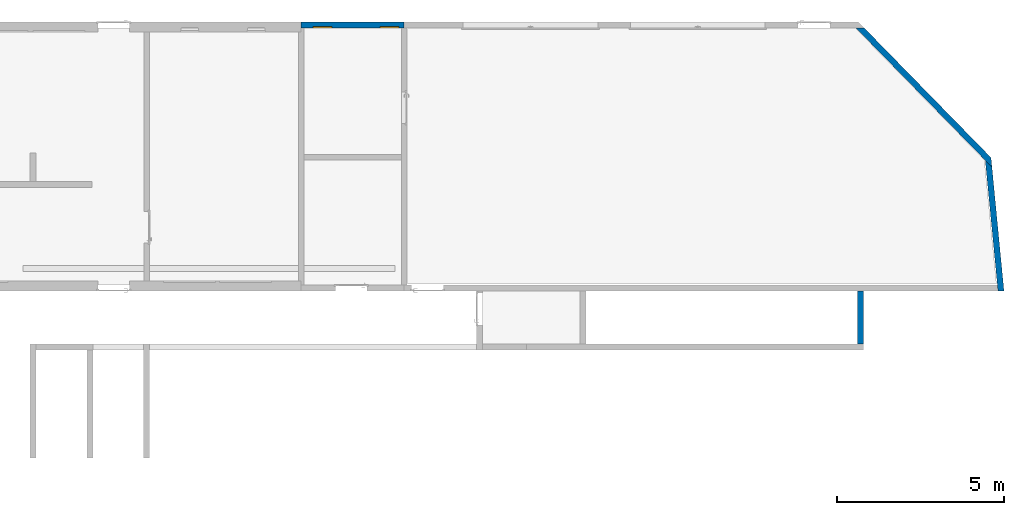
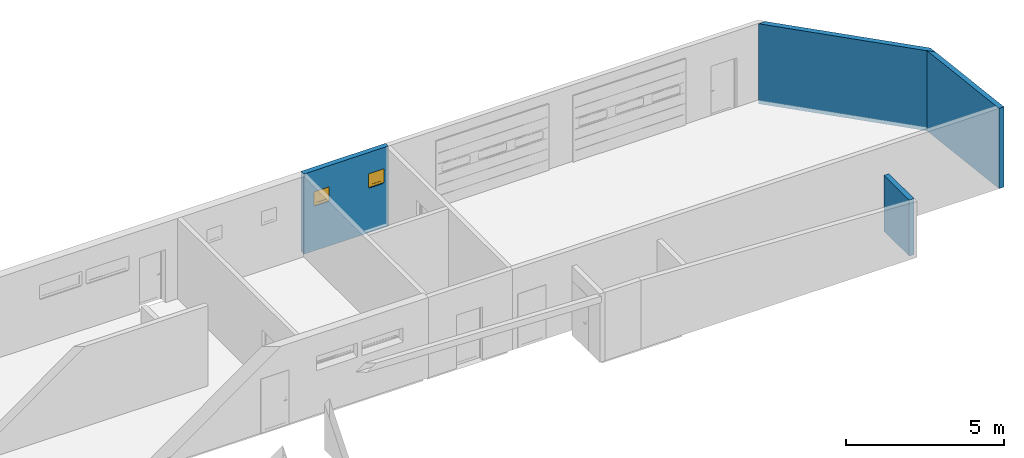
# One storey, part 5 of 9: 4 walls, 2 windows, 2 openings.
"""IFC2X3 building model written with IfcOpenShell, lengths in metres."""

from ifc_helpers import new_model, entity, si_unit, converted_unit, derived_unit, direction, frame, frame_2d, origin, place, context, subcontext, project, spatial, polyline, rectangle, outline, extrude, clip, bounded_halfspace, faceted_brep, source, transform, mapped, material, material_list, layer, layer_set, layer_usage, type_object, type_shapes, element, fill, save


model = new_model("IFC2X3")

# Units and contexts
model_context = context("Model", 3, precision=1e-05, world=origin(), true_north=direction((6.12303176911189e-17, 1.0)))
body_context = subcontext(model_context, "Body", "Model", "MODEL_VIEW")
ifc_project = project(units=[si_unit("LENGTHUNIT", "METRE"), si_unit("AREAUNIT", "SQUARE_METRE"), si_unit("VOLUMEUNIT", "CUBIC_METRE"), converted_unit("PLANEANGLEUNIT", "DEGREE", entity("IfcRatioMeasure", 0.0174532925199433), si_unit("PLANEANGLEUNIT", "RADIAN"), dimensions=[0, 0, 0, 0, 0, 0, 0]), si_unit("MASSUNIT", "GRAM", prefix="KILO"), derived_unit("MASSDENSITYUNIT", [(si_unit("MASSUNIT", "GRAM", prefix="KILO"), 1), (si_unit("LENGTHUNIT", "METRE"), -3)]), si_unit("TIMEUNIT", "SECOND"), si_unit("FREQUENCYUNIT", "HERTZ"), si_unit("THERMODYNAMICTEMPERATUREUNIT", "DEGREE_CELSIUS"), derived_unit("THERMALTRANSMITTANCEUNIT", [(si_unit("MASSUNIT", "GRAM", prefix="KILO"), 1), (si_unit("THERMODYNAMICTEMPERATUREUNIT", "KELVIN"), -1), (si_unit("TIMEUNIT", "SECOND"), -3)]), derived_unit("VOLUMETRICFLOWRATEUNIT", [(si_unit("LENGTHUNIT", "METRE"), 3), (si_unit("TIMEUNIT", "SECOND"), -1)]), si_unit("ELECTRICCURRENTUNIT", "AMPERE"), si_unit("ELECTRICVOLTAGEUNIT", "VOLT"), si_unit("POWERUNIT", "WATT"), si_unit("FORCEUNIT", "NEWTON", prefix="KILO"), si_unit("ILLUMINANCEUNIT", "LUX"), si_unit("LUMINOUSFLUXUNIT", "LUMEN"), si_unit("LUMINOUSINTENSITYUNIT", "CANDELA"), derived_unit("USERDEFINED", [(si_unit("MASSUNIT", "GRAM", prefix="KILO"), -1), (si_unit("LENGTHUNIT", "METRE"), -2), (si_unit("TIMEUNIT", "SECOND"), 3), (si_unit("LUMINOUSFLUXUNIT", "LUMEN"), 1)]), derived_unit("LINEARVELOCITYUNIT", [(si_unit("LENGTHUNIT", "METRE"), 1), (si_unit("TIMEUNIT", "SECOND"), -1)]), si_unit("PRESSUREUNIT", "PASCAL"), derived_unit("USERDEFINED", [(si_unit("LENGTHUNIT", "METRE"), -2), (si_unit("MASSUNIT", "GRAM", prefix="KILO"), 1), (si_unit("TIMEUNIT", "SECOND"), -2)])], contexts=[model_context])

# Site, building, storey
site_placement = place(None, origin())
site = spatial("IfcSite", under=ifc_project, at=site_placement, Name="Default", CompositionType="ELEMENT")
building_placement = place(site_placement, origin())
building = spatial("IfcBuilding", under=site, at=building_placement, CompositionType="ELEMENT")
storey_placement = place(building_placement, origin())
storey = spatial("IfcBuildingStorey", under=building, at=storey_placement, Name="Niveau 0", CompositionType="ELEMENT", Elevation=-1.94916083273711e-14)

# Walls
ifc_material_1 = material(Name="Maçonnerie - Voile BA")
ifc_layer = layer(ifc_material_1, 0.18)
ifc_layer_set = layer_set([ifc_layer], Name="Mur de base:Ext. Voile BA 18")
ifc_layer_usage_1 = layer_usage(ifc_layer_set, "AXIS2", "NEGATIVE", 0.09)
wall_type = type_object("IfcWallType", Name="Mur de base:Ext. Voile BA 18", PredefinedType="NOTDEFINED")
wall_1_placement = place(storey_placement, frame((19.9388114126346, 2.89203739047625, 0.0), z_axis=(0.0, 0.0, 1.0), x_axis=(0.699097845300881, -0.715026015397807, 0.0)))
element("IfcWallStandardCase", 1, at=wall_1_placement, inside=storey, type_object=wall_type, material=ifc_layer_usage_1, Name="Mur de base:Ext. Voile BA 18", ObjectType="Mur de base:Ext. Voile BA 18", context=body_context, shape_type="SweptSolid", body=[
    extrude(outline(polyline([(5.82158963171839, -0.0899999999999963), (5.59768437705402, 0.0900000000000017), (0.175990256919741, 0.0900000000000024), (0.0, -0.0899999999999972), (5.53430307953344, -0.0899999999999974), (5.82158963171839, -0.0899999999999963)])), origin(), (0.0, 0.0, 1.0), 3.09252723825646),
])
ifc_layer_usage_2 = layer_usage(ifc_layer_set, "AXIS2", "NEGATIVE", 0.09)
wall_2_placement = place(storey_placement, frame((23.8330552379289, -1.11933456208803, 0.0), z_axis=(0.0, 0.0, 1.0), x_axis=(0.0968614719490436, -0.995297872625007, 0.0)))
element("IfcWallStandardCase", 2, at=wall_2_placement, inside=storey, type_object=wall_type, material=ifc_layer_usage_2, Name="Mur de base:Ext. Voile BA 18", ObjectType="Mur de base:Ext. Voile BA 18", context=body_context, shape_type="SweptSolid", body=[
    extrude(outline(polyline([(3.92126762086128, -0.0899999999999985), (3.9387850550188, 0.0899999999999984), (0.223905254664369, 0.0899999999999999), (0.0, -0.0899999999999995), (3.74041723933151, -0.0899999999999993), (3.92126762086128, -0.0899999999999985)])), origin(), (0.0, 0.0, 1.0), 3.09918100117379),
])

# Wall, openings, windows
ifc_layer_usage_3 = layer_usage(ifc_layer_set, "AXIS2", "NEGATIVE", 0.09)
wall_3_placement = place(storey_placement, frame((3.28053863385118, 2.91911858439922, 0.0)))
wall_3 = element("IfcWallStandardCase", 3, at=wall_3_placement, inside=storey, type_object=wall_type, material=ifc_layer_usage_3, Name="Mur de base:Ext. Voile BA 18", ObjectType="Mur de base:Ext. Voile BA 18", context=body_context, shape_type="Clipping", body=[
    clip(extrude(rectangle(XDim=3.08000000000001, YDim=0.18, at=frame_2d((1.54, -2.77555756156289e-17), x_axis=(-1.0, 0.0))), origin(), (0.0, 0.0, 1.0), 3.10000000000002), bounded_halfspace(frame((0.0, -0.0900000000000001, 3.10000000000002), z_axis=(0.0, 0.0, -1.0), x_axis=(1.0, 0.0, 0.0)), True, frame((0.0, -0.0900000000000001, 3.10000000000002)), polyline([(0.0, 0.0), (0.0799999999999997, 0.0), (3.0, 0.0), (3.08000000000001, 0.0), (3.08000000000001, 0.18), (0.0, 0.18), (0.0, 0.0)]))),
])
opening_1_placement = place(wall_3_placement, frame((2.36, -0.694379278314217, 1.64736842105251)))
opening_1 = element("IfcOpeningElement", 4, at=opening_1_placement, cuts=wall_3, Name="Mur de base:Ext. Voile BA 18", ObjectType="Opening", context=body_context, shape_type="Brep", body=[
    faceted_brep([(0.530000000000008, 0.654379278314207, 0.602631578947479), (0.0300000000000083, 0.654379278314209, 0.602631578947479), (0.0300000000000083, 0.654379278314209, 0.102631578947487), (0.0199999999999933, 0.654379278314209, 0.102631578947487), (0.0, 0.654379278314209, 0.102631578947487), (0.0, 0.654379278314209, 0.632631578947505), (0.55999999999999, 0.654379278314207, 0.632631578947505), (0.55999999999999, 0.654379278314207, 0.102631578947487), (0.539999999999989, 0.654379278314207, 0.102631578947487), (0.530000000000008, 0.654379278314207, 0.102631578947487), (0.0, 0.0, 0.102631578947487), (0.559999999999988, 0.0, 0.102631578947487), (0.559999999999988, 0.0, 0.632631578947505), (0.0, 0.0, 0.632631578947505), (0.0300000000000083, 0.594379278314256, 0.102631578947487), (0.530000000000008, 0.594379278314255, 0.102631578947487), (0.530000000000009, 1.28437927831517, 0.0), (0.0300000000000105, 1.28437927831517, 0.0), (0.0300000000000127, 1.28437927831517, 0.602631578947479), (0.530000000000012, 1.28437927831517, 0.602631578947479), (0.0300000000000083, 0.601664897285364, 0.0749927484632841), (0.0300000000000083, 0.598596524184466, 0.0781468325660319), (0.0300000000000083, 0.59629216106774, 0.0818955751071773), (0.0300000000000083, 0.594863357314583, 0.0860575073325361), (0.0300000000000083, 0.594379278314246, 0.090431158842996), (0.0300000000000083, 0.609469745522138, 0.0710431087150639), (0.0300000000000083, 0.605348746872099, 0.0725860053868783), (0.530000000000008, 0.596292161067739, 0.0818955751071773), (0.530000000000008, 0.598596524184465, 0.0781468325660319), (0.530000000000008, 0.601664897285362, 0.0749927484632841), (0.530000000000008, 0.605348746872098, 0.0725860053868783), (0.530000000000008, 0.609469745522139, 0.0710431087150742), (0.530000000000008, 0.594379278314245, 0.0904311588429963), (0.530000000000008, 0.594863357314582, 0.0860575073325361), (0.186153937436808, 0.594379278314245, 0.0904311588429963), (0.342307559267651, 0.594379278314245, 0.0904311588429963), (0.451923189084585, 0.594379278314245, 0.0904311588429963), (0.14867461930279, 0.597340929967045, 0.0799576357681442), (0.222814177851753, 0.595462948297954, 0.0839371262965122), (0.118984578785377, 0.595462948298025, 0.0839371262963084), (0.373846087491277, 0.609469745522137, 0.0710431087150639), (0.387826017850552, 0.603440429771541, 0.0736877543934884), (0.279999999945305, 0.603468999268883, 0.0736691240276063), (0.280000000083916, 0.600043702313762, 0.0764851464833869), (0.17217398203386, 0.603440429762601, 0.0736877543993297), (0.130029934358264, 0.60013994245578, 0.0763868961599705), (0.381066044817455, 0.595462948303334, 0.0839371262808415), (0.393079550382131, 0.598009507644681, 0.0789407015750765), (0.372845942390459, 0.60045981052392, 0.076069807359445), (0.108076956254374, 0.609469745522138, 0.0710431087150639), (0.217692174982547, 0.609469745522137, 0.0710431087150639), (0.259743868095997, 0.597293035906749, 0.0800359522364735)], [[[0, 1, 2, 3, 4, 5, 6, 7, 8, 9]], [[10, 11, 12, 13]], [[7, 6, 12, 11]], [[8, 7, 11, 10, 4, 3, 2, 14, 15, 9]], [[5, 4, 10, 13]], [[6, 5, 13, 12]], [[16, 17, 18, 19]], [[20, 21, 22, 23, 24, 14, 2, 1, 18, 17, 25, 26]], [[27, 28, 29, 30, 31, 16, 19, 0, 9, 15, 32, 33]], [[1, 0, 19, 18]], [[32, 15, 14, 24, 34, 35, 36]], [[37, 38, 39]], [[40, 30, 41]], [[42, 43, 44]], [[45, 20, 44]], [[27, 46, 47]], [[38, 46, 36, 35, 34, 39]], [[48, 42, 41]], [[26, 25, 49]], [[40, 31, 30]], [[33, 32, 36]], [[24, 23, 34]], [[23, 22, 39]], [[21, 20, 45]], [[43, 37, 45]], [[44, 49, 50]], [[51, 38, 37]], [[41, 30, 29]], [[37, 22, 21]], [[34, 23, 39]], [[48, 28, 47]], [[48, 29, 28]], [[47, 46, 51]], [[27, 33, 46]], [[42, 40, 41]], [[20, 26, 44]], [[51, 37, 43]], [[37, 39, 22]], [[33, 36, 46]], [[26, 49, 44]], [[47, 51, 43]], [[46, 38, 51]], [[48, 47, 43]], [[27, 47, 28]], [[44, 50, 42]], [[40, 42, 50]], [[43, 45, 44]], [[21, 45, 37]], [[42, 48, 43]], [[29, 48, 41]], [[16, 31, 40, 50, 49, 25, 17]]]),
])
opening_2_placement = place(wall_3_placement, frame((0.359999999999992, -0.69437927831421, 1.64736842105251)))
opening_2 = element("IfcOpeningElement", 5, at=opening_2_placement, cuts=wall_3, Name="Mur de base:Ext. Voile BA 18", ObjectType="Opening", context=body_context, shape_type="Brep", body=[
    faceted_brep([(0.530000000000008, 0.654379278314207, 0.602631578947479), (0.0300000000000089, 0.654379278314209, 0.602631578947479), (0.0300000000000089, 0.654379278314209, 0.102631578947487), (0.0199999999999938, 0.654379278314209, 0.102631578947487), (0.0, 0.654379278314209, 0.102631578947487), (0.0, 0.654379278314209, 0.632631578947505), (0.55999999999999, 0.654379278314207, 0.632631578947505), (0.55999999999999, 0.654379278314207, 0.102631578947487), (0.539999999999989, 0.654379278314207, 0.102631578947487), (0.530000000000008, 0.654379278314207, 0.102631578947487), (0.0, 0.0, 0.102631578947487), (0.559999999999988, 0.0, 0.102631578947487), (0.559999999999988, 0.0, 0.632631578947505), (0.0, 0.0, 0.632631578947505), (0.0300000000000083, 0.594379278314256, 0.102631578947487), (0.530000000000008, 0.594379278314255, 0.102631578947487), (0.53000000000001, 1.28437927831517, 0.0), (0.0300000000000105, 1.28437927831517, 0.0), (0.0300000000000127, 1.28437927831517, 0.602631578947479), (0.530000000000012, 1.28437927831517, 0.602631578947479), (0.0300000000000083, 0.601664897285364, 0.0749927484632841), (0.0300000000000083, 0.598596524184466, 0.0781468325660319), (0.0300000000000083, 0.59629216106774, 0.0818955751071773), (0.0300000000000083, 0.594863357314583, 0.0860575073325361), (0.0300000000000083, 0.594379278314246, 0.090431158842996), (0.0300000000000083, 0.609469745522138, 0.0710431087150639), (0.0300000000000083, 0.605348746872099, 0.0725860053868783), (0.530000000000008, 0.596292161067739, 0.0818955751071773), (0.530000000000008, 0.598596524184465, 0.0781468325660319), (0.530000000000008, 0.601664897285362, 0.0749927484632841), (0.530000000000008, 0.605348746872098, 0.0725860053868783), (0.530000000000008, 0.609469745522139, 0.0710431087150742), (0.530000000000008, 0.594379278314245, 0.0904311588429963), (0.530000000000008, 0.594863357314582, 0.0860575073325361), (0.186153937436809, 0.594379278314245, 0.0904311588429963), (0.342307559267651, 0.594379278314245, 0.0904311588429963), (0.451923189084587, 0.594379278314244, 0.0904311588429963), (0.148674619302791, 0.597340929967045, 0.0799576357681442), (0.222814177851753, 0.595462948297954, 0.0839371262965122), (0.118984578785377, 0.595462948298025, 0.0839371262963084), (0.373846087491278, 0.609469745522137, 0.0710431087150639), (0.387826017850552, 0.603440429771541, 0.0736877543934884), (0.279999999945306, 0.603468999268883, 0.0736691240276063), (0.280000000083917, 0.600043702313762, 0.0764851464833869), (0.17217398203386, 0.603440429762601, 0.0736877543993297), (0.130029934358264, 0.60013994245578, 0.0763868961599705), (0.381066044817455, 0.595462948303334, 0.0839371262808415), (0.393079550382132, 0.598009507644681, 0.0789407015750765), (0.37284594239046, 0.60045981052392, 0.076069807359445), (0.108076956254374, 0.609469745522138, 0.0710431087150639), (0.217692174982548, 0.609469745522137, 0.0710431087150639), (0.259743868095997, 0.597293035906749, 0.0800359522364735)], [[[0, 1, 2, 3, 4, 5, 6, 7, 8, 9]], [[10, 11, 12, 13]], [[7, 6, 12, 11]], [[8, 7, 11, 10, 4, 3, 2, 14, 15, 9]], [[5, 4, 10, 13]], [[6, 5, 13, 12]], [[16, 17, 18, 19]], [[20, 21, 22, 23, 24, 14, 2, 1, 18, 17, 25, 26]], [[27, 28, 29, 30, 31, 16, 19, 0, 9, 15, 32, 33]], [[1, 0, 19, 18]], [[32, 15, 14, 24, 34, 35, 36]], [[37, 38, 39]], [[40, 30, 41]], [[42, 43, 44]], [[45, 20, 44]], [[27, 46, 47]], [[38, 46, 36, 35, 34, 39]], [[48, 42, 41]], [[26, 25, 49]], [[40, 31, 30]], [[33, 32, 36]], [[24, 23, 34]], [[23, 22, 39]], [[21, 20, 45]], [[43, 37, 45]], [[44, 49, 50]], [[51, 38, 37]], [[41, 30, 29]], [[37, 22, 21]], [[34, 23, 39]], [[48, 28, 47]], [[48, 29, 28]], [[47, 46, 51]], [[27, 33, 46]], [[42, 40, 41]], [[20, 26, 44]], [[51, 37, 43]], [[37, 39, 22]], [[33, 36, 46]], [[26, 49, 44]], [[47, 51, 43]], [[46, 38, 51]], [[48, 47, 43]], [[27, 47, 28]], [[44, 50, 42]], [[40, 42, 50]], [[43, 45, 44]], [[21, 45, 37]], [[42, 48, 43]], [[29, 48, 41]], [[16, 31, 40, 50, 49, 25, 17]]]),
])
ifc_material_2 = material(Name="PVC Blanc")
ifc_material_3 = material(Name="Verre")
ifc_material_list_1 = material_list([ifc_material_2, ifc_material_3])
ifc_material_list_2 = material_list([ifc_material_2, ifc_material_3])
window_style = type_object("IfcWindowStyle", Name="50x50 ss doublage", ConstructionType="NOTDEFINED", OperationType="NOTDEFINED", ParameterTakesPrecedence=False, Sizeable=False, material=ifc_material_list_2)
shared_shape = source(origin(), body_context, "Body", "Brep", [
    faceted_brep([(0.460000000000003, -0.680000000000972, 0.192631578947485), (0.100000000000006, -0.680000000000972, 0.192631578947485), (0.0500000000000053, -0.680000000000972, 0.142631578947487), (0.510000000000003, -0.680000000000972, 0.142631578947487), (0.460000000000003, -0.640000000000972, 0.192631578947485), (0.510000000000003, -0.640000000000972, 0.142631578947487), (0.0500000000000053, -0.640000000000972, 0.142631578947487), (0.100000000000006, -0.640000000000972, 0.192631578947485)], [[[0, 1, 2, 3]], [[4, 5, 6, 7]], [[3, 5, 4, 0]], [[2, 6, 5, 3]], [[1, 7, 6, 2]], [[0, 4, 7, 1]]]),
    faceted_brep([(0.100000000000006, -0.680000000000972, 0.192631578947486), (0.100000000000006, -0.680000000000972, 0.53263157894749), (0.0500000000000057, -0.680000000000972, 0.582631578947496), (0.0500000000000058, -0.680000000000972, 0.142631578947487), (0.0500000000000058, -0.640000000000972, 0.142631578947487), (0.100000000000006, -0.640000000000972, 0.192631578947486), (0.0500000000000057, -0.640000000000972, 0.582631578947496), (0.100000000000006, -0.640000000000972, 0.53263157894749)], [[[0, 1, 2, 3]], [[3, 4, 5, 0]], [[2, 6, 4, 3]], [[1, 7, 6, 2]], [[0, 5, 7, 1]], [[5, 4, 6, 7]]]),
    faceted_brep([(0.460000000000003, -0.640000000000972, 0.53263157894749), (0.510000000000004, -0.640000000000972, 0.582631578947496), (0.510000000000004, -0.640000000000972, 0.142631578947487), (0.460000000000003, -0.640000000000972, 0.192631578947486), (0.510000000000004, -0.680000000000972, 0.582631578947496), (0.460000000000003, -0.680000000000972, 0.53263157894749), (0.510000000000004, -0.680000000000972, 0.142631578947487), (0.460000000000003, -0.680000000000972, 0.192631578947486)], [[[0, 1, 2, 3]], [[4, 1, 0, 5]], [[6, 2, 1, 4]], [[7, 3, 2, 6]], [[5, 0, 3, 7]], [[5, 7, 6, 4]]]),
    faceted_brep([(0.100000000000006, -0.670000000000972, 0.532631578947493), (0.100000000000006, -0.670000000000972, 0.192631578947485), (0.460000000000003, -0.670000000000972, 0.192631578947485), (0.460000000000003, -0.670000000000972, 0.532631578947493), (0.100000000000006, -0.650000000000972, 0.532631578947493), (0.460000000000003, -0.650000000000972, 0.532631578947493), (0.460000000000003, -0.650000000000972, 0.192631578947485), (0.100000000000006, -0.650000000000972, 0.192631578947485)], [[[0, 1, 2, 3]], [[4, 5, 6, 7]], [[3, 5, 4, 0]], [[2, 6, 5, 3]], [[1, 7, 6, 2]], [[0, 4, 7, 1]]]),
    faceted_brep([(0.100000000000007, -0.680000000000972, 0.532631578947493), (0.460000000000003, -0.680000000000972, 0.532631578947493), (0.510000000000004, -0.680000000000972, 0.582631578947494), (0.0500000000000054, -0.680000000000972, 0.582631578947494), (0.100000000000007, -0.640000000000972, 0.532631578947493), (0.0500000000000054, -0.640000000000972, 0.582631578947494), (0.510000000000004, -0.640000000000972, 0.582631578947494), (0.460000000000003, -0.640000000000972, 0.532631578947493)], [[[0, 1, 2, 3]], [[4, 5, 6, 7]], [[3, 5, 4, 0]], [[2, 6, 5, 3]], [[1, 7, 6, 2]], [[0, 4, 7, 1]]]),
    faceted_brep([(0.0500000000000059, -0.630000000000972, 0.142631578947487), (0.0500000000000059, -0.630000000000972, 0.142350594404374), (0.0500000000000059, -0.670000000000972, 0.132631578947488), (0.0500000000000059, -0.670000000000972, 0.102631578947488), (0.0500000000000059, -0.680000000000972, 0.102631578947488), (0.0500000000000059, -0.680000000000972, 0.142631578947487), (0.510000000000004, -0.680000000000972, 0.102631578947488), (0.510000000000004, -0.670000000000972, 0.102631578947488), (0.510000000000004, -0.670000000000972, 0.132631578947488), (0.510000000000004, -0.630000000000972, 0.142350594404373), (0.510000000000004, -0.630000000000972, 0.142631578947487), (0.510000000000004, -0.680000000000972, 0.142631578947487), (0.0300000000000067, -0.670000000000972, 0.102631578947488), (0.0300000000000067, -0.630000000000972, 0.102631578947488), (0.530000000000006, -0.630000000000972, 0.102631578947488), (0.530000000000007, -0.670000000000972, 0.102631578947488), (0.530000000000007, -0.630000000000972, 0.142350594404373), (0.0300000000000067, -0.630000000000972, 0.142350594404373), (0.0300000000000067, -0.670000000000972, 0.132631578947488), (0.530000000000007, -0.670000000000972, 0.132631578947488)], [[[0, 1, 2, 3, 4, 5]], [[6, 7, 8, 9, 10, 11]], [[5, 11, 10, 0]], [[4, 6, 11, 5]], [[4, 3, 12, 13, 14, 15, 7, 6]], [[10, 9, 16, 14, 13, 17, 1, 0]], [[13, 12, 18, 17]], [[14, 16, 19, 15]], [[12, 3, 2, 18]], [[18, 2, 1, 17]], [[16, 9, 8, 19]], [[19, 8, 7, 15]]]),
    faceted_brep([(0.540000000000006, -0.630000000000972, 0.602631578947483), (0.530000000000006, -0.630000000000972, 0.602631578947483), (0.530000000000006, -0.680000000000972, 0.602631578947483), (0.540000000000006, -0.680000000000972, 0.602631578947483), (0.540000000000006, -0.630000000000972, 0.102631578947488), (0.540000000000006, -0.680000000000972, 0.102631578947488), (0.530000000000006, -0.680000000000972, 0.102631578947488), (0.530000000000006, -0.630000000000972, 0.102631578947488)], [[[0, 1, 2, 3]], [[4, 5, 6, 7]], [[0, 4, 7, 1]], [[1, 7, 6, 2]], [[2, 6, 5, 3]], [[3, 5, 4, 0]]]),
    faceted_brep([(0.0200000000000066, -0.630000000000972, 0.602631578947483), (0.0200000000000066, -0.630000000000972, 0.102631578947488), (0.0200000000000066, -0.680000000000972, 0.102631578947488), (0.0200000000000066, -0.680000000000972, 0.602631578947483), (0.0300000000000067, -0.680000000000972, 0.102631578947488), (0.0300000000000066, -0.680000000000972, 0.602631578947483), (0.0300000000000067, -0.630000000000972, 0.102631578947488), (0.0300000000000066, -0.630000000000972, 0.602631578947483)], [[[0, 1, 2, 3]], [[3, 2, 4, 5]], [[5, 4, 6, 7]], [[7, 6, 1, 0]], [[1, 6, 4, 2]], [[0, 3, 5, 7]]]),
    faceted_brep([(0.560000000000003, -0.680000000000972, 0.632631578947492), (0.510000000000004, -0.680000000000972, 0.582631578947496), (0.510000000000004, -0.680000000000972, 0.102631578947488), (0.560000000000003, -0.680000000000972, 0.102631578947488), (0.560000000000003, -0.630000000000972, 0.632631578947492), (0.560000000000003, -0.630000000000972, 0.102631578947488), (0.510000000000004, -0.630000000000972, 0.102631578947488), (0.510000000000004, -0.630000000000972, 0.582631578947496)], [[[0, 1, 2, 3]], [[4, 5, 6, 7]], [[3, 5, 4, 0]], [[2, 6, 5, 3]], [[1, 7, 6, 2]], [[0, 4, 7, 1]]]),
    faceted_brep([(0.0500000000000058, -0.680000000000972, 0.582631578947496), (0.0500000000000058, -0.630000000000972, 0.582631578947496), (0.0, -0.630000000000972, 0.632631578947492), (0.0, -0.680000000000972, 0.632631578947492), (0.0500000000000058, -0.680000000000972, 0.102631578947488), (0.0500000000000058, -0.630000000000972, 0.102631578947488), (0.0, -0.680000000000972, 0.102631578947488), (0.0, -0.630000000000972, 0.102631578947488)], [[[0, 1, 2, 3]], [[4, 5, 1, 0]], [[6, 7, 5, 4]], [[3, 2, 7, 6]], [[2, 1, 5, 7]], [[3, 6, 4, 0]]]),
    faceted_brep([(0.0200000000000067, -0.680000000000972, 0.602631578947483), (0.0200000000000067, -0.680000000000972, 0.612631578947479), (0.0200000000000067, -0.630000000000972, 0.612631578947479), (0.0200000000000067, -0.630000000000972, 0.602631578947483), (0.540000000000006, -0.680000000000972, 0.602631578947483), (0.540000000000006, -0.630000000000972, 0.602631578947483), (0.540000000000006, -0.630000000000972, 0.612631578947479), (0.540000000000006, -0.680000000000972, 0.612631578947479)], [[[0, 1, 2, 3]], [[4, 5, 6, 7]], [[0, 4, 7, 1]], [[1, 7, 6, 2]], [[2, 6, 5, 3]], [[3, 5, 4, 0]]]),
    faceted_brep([(0.560000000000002, -0.680000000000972, 0.632631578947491), (0.0, -0.680000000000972, 0.632631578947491), (0.0500000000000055, -0.680000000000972, 0.582631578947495), (0.510000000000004, -0.680000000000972, 0.582631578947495), (0.560000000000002, -0.630000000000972, 0.632631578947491), (0.510000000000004, -0.630000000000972, 0.582631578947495), (0.0500000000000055, -0.630000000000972, 0.582631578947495), (0.0, -0.630000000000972, 0.632631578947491)], [[[0, 1, 2, 3]], [[4, 5, 6, 7]], [[3, 5, 4, 0]], [[2, 6, 5, 3]], [[1, 7, 6, 2]], [[0, 4, 7, 1]]]),
])
type_shapes(window_style, [shared_shape])
window_1_placement = place(opening_1_placement, frame((0.0, 1.28437927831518, 0.0)))
window_1 = element("IfcWindow", 6, at=window_1_placement, inside=storey, type_object=window_style, material=ifc_material_list_1, Name="Rect 1 fixe:50x50 ss doublage", ObjectType="50x50 ss doublage", OverallHeight=0.580000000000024, OverallWidth=0.560000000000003, context=body_context, shape_type="MappedRepresentation", body=[
    mapped(shared_shape, transform((0.0, 0.0, 0.0), scale=1.0)),
])
fill(opening_1, window_1)
ifc_material_list_3 = material_list([ifc_material_2, ifc_material_3])
window_2_placement = place(opening_2_placement, frame((0.0, 1.28437927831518, 0.0)))
window_2 = element("IfcWindow", 7, at=window_2_placement, inside=storey, type_object=window_style, material=ifc_material_list_3, Name="Rect 1 fixe:50x50 ss doublage", ObjectType="50x50 ss doublage", OverallHeight=0.580000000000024, OverallWidth=0.560000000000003, context=body_context, shape_type="MappedRepresentation", body=[
    mapped(shared_shape, transform((0.0, 0.0, 0.0), scale=1.0)),
])
fill(opening_2, window_2)

# Wall
ifc_layer_usage_4 = layer_usage(ifc_layer_set, "AXIS2", "NEGATIVE", 0.09)
wall_4_placement = place(storey_placement, frame((20.0160412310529, -5.03088141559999, -0.17), z_axis=(0.0, 0.0, 1.0), x_axis=(0.0, -1.0, 0.0)))
element("IfcWallStandardCase", 8, at=wall_4_placement, inside=storey, type_object=wall_type, material=ifc_layer_usage_4, Name="Mur de base:Ext. Voile BA 18", ObjectType="Mur de base:Ext. Voile BA 18", context=body_context, shape_type="SweptSolid", body=[
    extrude(rectangle(XDim=1.59, YDim=0.180000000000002, at=frame_2d((0.795000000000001, -2.22044604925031e-16), x_axis=(-1.0, 0.0))), origin(), (0.0, 0.0, 1.0), 2.16000000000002),
])

save(model, "model.ifc")
